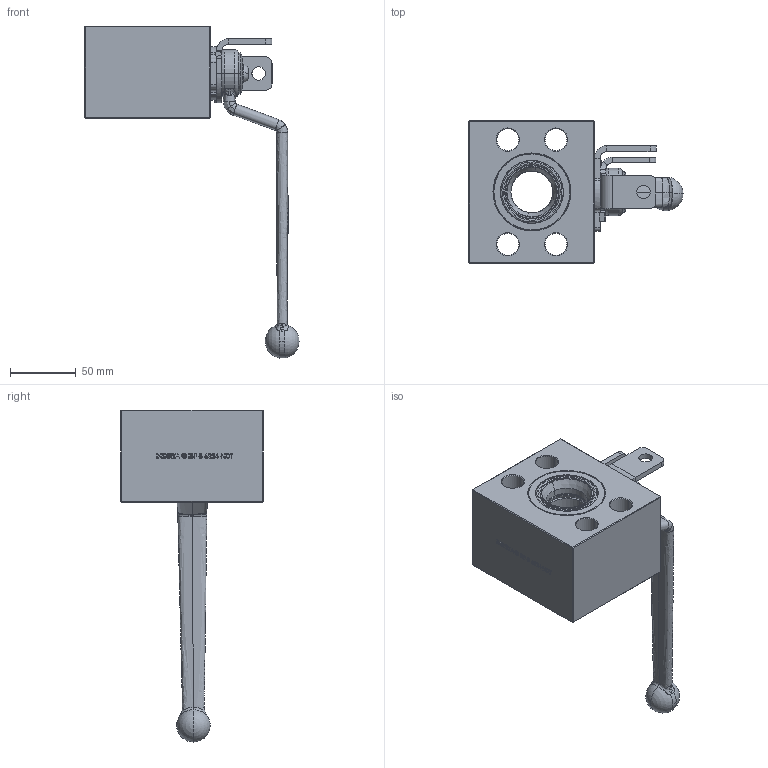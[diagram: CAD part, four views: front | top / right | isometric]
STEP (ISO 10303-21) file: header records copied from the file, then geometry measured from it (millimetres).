
FILE_DESCRIPTION (( 'STEP AP214' ), '1' );
FILE_NAME ('IBF-B-6224-N-D-T- OPEN.STEP', '2026-02-19T15:18:08', ( '' ), ( '' ), 'SwSTEP 2.0', 'SolidWorks 2025', '' );
FILE_SCHEMA (( 'AUTOMOTIVE_DESIGN' ));
Length unit declared in the file: inch
Products named in the file (1): IBF-B-6224-N-D-T- OPEN
Bounding box: 162.49 x 107.95 x 251.86 mm (x, y, z)
Volume: 663626.1 mm3; surface area: 130547.7 mm2
Topology: 2 solids, 3 shells, 1074 faces, 3005 edges, 1967 vertices
Faces by surface type: plane 507, cylinder 191, bspline 184, cone 99, torus 70, sphere 23
Entity records: 60722 total; most frequent: CARTESIAN_POINT 35035, ORIENTED_EDGE 5982, DIRECTION 4469, EDGE_CURVE 2991, VERTEX_POINT 1963, AXIS2_PLACEMENT_3D 1544, LINE 1381, VECTOR 1381
